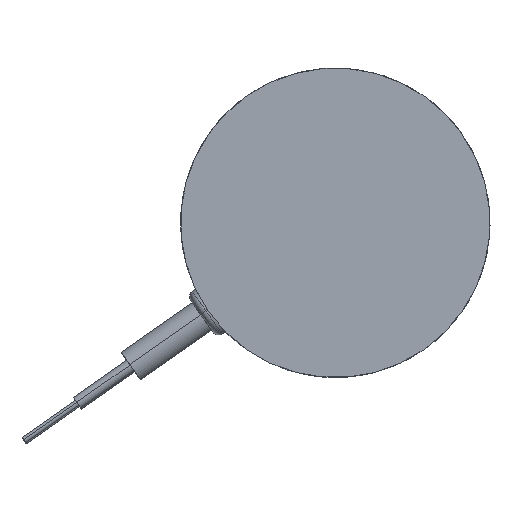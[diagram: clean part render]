
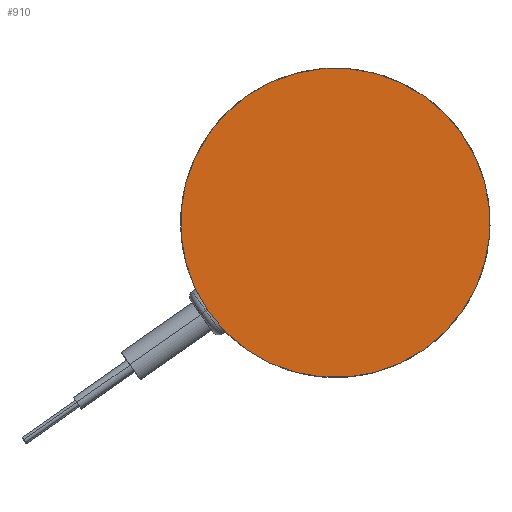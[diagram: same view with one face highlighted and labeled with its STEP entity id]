
A CAD part, left-side view. The second image highlights one B-rep face of the part: STEP entity #910.
In plain terms, the highlighted planar face has unit normal (-1, 0, 0).
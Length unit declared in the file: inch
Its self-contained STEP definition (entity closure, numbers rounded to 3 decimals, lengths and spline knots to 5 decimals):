
#367 = CIRCLE ( 'NONE', #3608, 0.71358 ) ;
#604 = ORIENTED_EDGE ( 'NONE', *, *, #4969, .F. ) ;
#910 = ADVANCED_FACE ( 'NONE', ( #2254 ), #1405, .F. ) ;
#931 = DIRECTION ( 'NONE',  ( 1., 0., 0. ) ) ;
#1274 = CARTESIAN_POINT ( 'NONE',  ( 0., 0., 0. ) ) ;
#1405 = PLANE ( 'NONE',  #7003 ) ;
#1800 = CARTESIAN_POINT ( 'NONE',  ( 0., 0.50458, -0.50458 ) ) ;
#1832 = DIRECTION ( 'NONE',  ( 1., 0., 0. ) ) ;
#1883 = EDGE_LOOP ( 'NONE', ( #604, #5341 ) ) ;
#2254 = FACE_OUTER_BOUND ( 'NONE', #1883, .T. ) ;
#2462 = DIRECTION ( 'NONE',  ( 0., -0.707, 0.707 ) ) ;
#3320 = AXIS2_PLACEMENT_3D ( 'NONE', #1274, #1832, #2462 ) ;
#3345 = DIRECTION ( 'NONE',  ( 1., 0., 0. ) ) ;
#3608 = AXIS2_PLACEMENT_3D ( 'NONE', #4511, #3345, #7497 ) ;
#4511 = CARTESIAN_POINT ( 'NONE',  ( 0., 0., 0. ) ) ;
#4843 = VERTEX_POINT ( 'NONE', #5999 ) ;
#4969 = EDGE_CURVE ( 'NONE', #6982, #4843, #4987, .T. ) ;
#4987 = CIRCLE ( 'NONE', #3320, 0.71358 ) ;
#5341 = ORIENTED_EDGE ( 'NONE', *, *, #6406, .F. ) ;
#5999 = CARTESIAN_POINT ( 'NONE',  ( 0., -0.50458, 0.50458 ) ) ;
#6144 = CARTESIAN_POINT ( 'NONE',  ( 0., 0., 0. ) ) ;
#6406 = EDGE_CURVE ( 'NONE', #4843, #6982, #367, .T. ) ;
#6982 = VERTEX_POINT ( 'NONE', #1800 ) ;
#7003 = AXIS2_PLACEMENT_3D ( 'NONE', #6144, #931, #7429 ) ;
#7429 = DIRECTION ( 'NONE',  ( 0., -0.707, 0.707 ) ) ;
#7497 = DIRECTION ( 'NONE',  ( 0., -0.707, 0.707 ) ) ;
